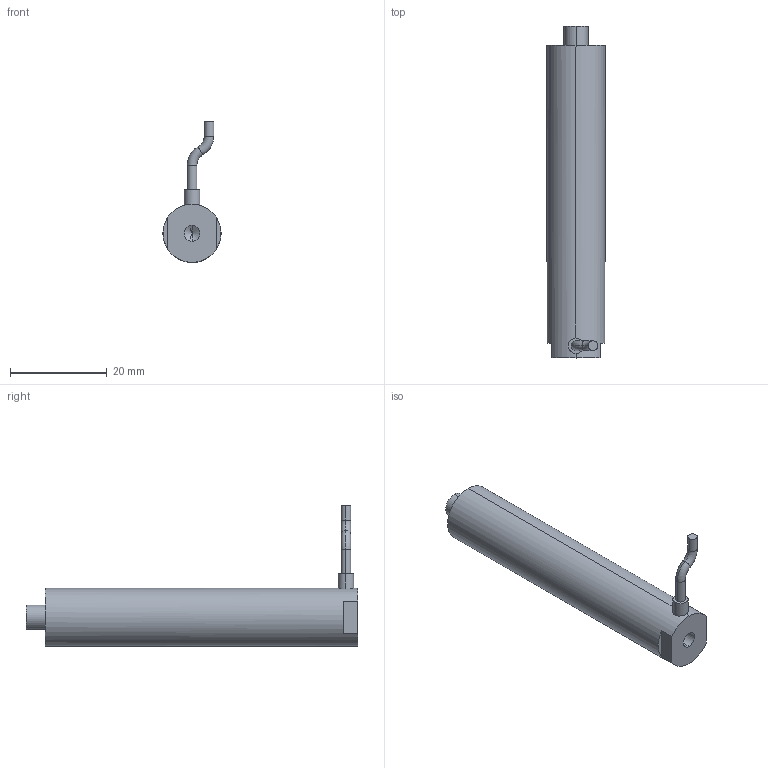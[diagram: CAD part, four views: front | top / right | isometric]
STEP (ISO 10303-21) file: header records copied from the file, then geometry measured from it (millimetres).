
FILE_DESCRIPTION (( 'STEP AP203' ), '1' );
FILE_NAME ('ƽͷʽ60VS12.STEP', '2020-08-19T06:08:11', ( 'User' ), ( 'china' ), 'SwSTEP 2.0', 'SolidWorks 2016', '' );
FILE_SCHEMA (( 'CONFIG_CONTROL_DESIGN' ));
Length unit declared in the file: millimetre
Products named in the file (1): ƽͷʽ60VS12
Bounding box: 12 x 68.5 x 29.08 mm (x, y, z)
Volume: 7364.2 mm3; surface area: 2914.5 mm2
Topology: 1 solids, 1 shells, 959 faces, 2639 edges, 1755 vertices
Faces by surface type: bspline 527, plane 302, cylinder 124, torus 4, cone 2
Entity records: 45543 total; most frequent: CARTESIAN_POINT 25900, ORIENTED_EDGE 5274, EDGE_CURVE 2637, DIRECTION 1993, B_SPLINE_CURVE_WITH_KNOTS 1790, VERTEX_POINT 1755, EDGE_LOOP 1034, FACE_OUTER_BOUND 959
